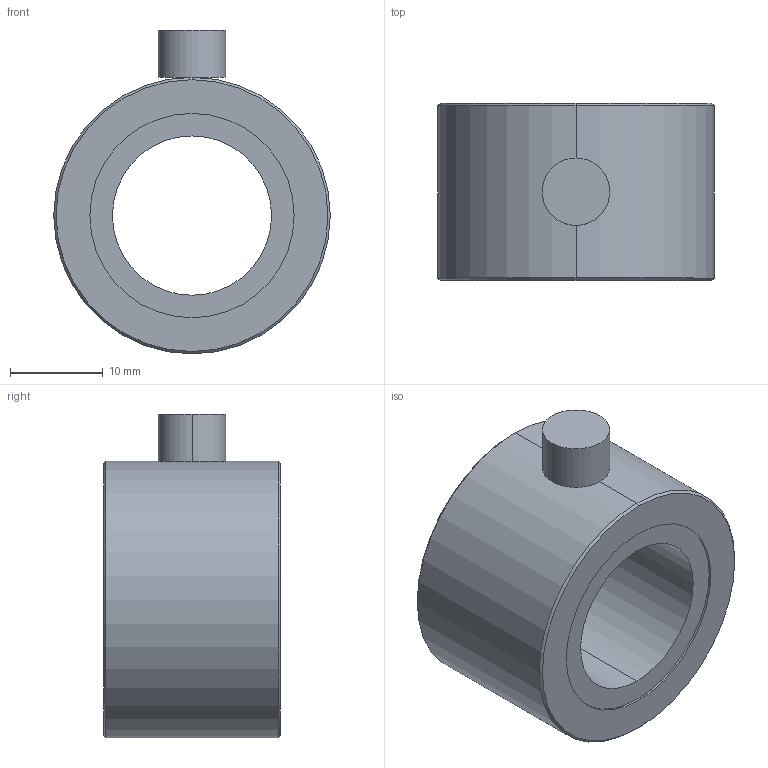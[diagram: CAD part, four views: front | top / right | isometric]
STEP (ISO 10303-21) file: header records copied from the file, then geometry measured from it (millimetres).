
FILE_DESCRIPTION (( 'STEP AP214' ), '1' );
FILE_NAME ('FINAL ASBY SS1747-5KLB.STEP', '2024-08-12T14:55:05', ( '' ), ( '' ), 'SwSTEP 2.0', 'SolidWorks 2008', '' );
FILE_SCHEMA (( 'AUTOMOTIVE_DESIGN' ));
Length unit declared in the file: inch
Products named in the file (1): FINAL ASBY SS1747-5KLB
Bounding box: 29.77 x 19.05 x 34.85 mm (x, y, z)
Volume: 8987.4 mm3; surface area: 3906.3 mm2
Topology: 2 solids, 2 shells, 20 faces, 38 edges, 24 vertices
Faces by surface type: cylinder 8, cone 6, plane 6
Entity records: 556 total; most frequent: DIRECTION 104, CARTESIAN_POINT 83, ORIENTED_EDGE 76, AXIS2_PLACEMENT_3D 45, EDGE_CURVE 38, EDGE_LOOP 24, CIRCLE 24, VERTEX_POINT 24
